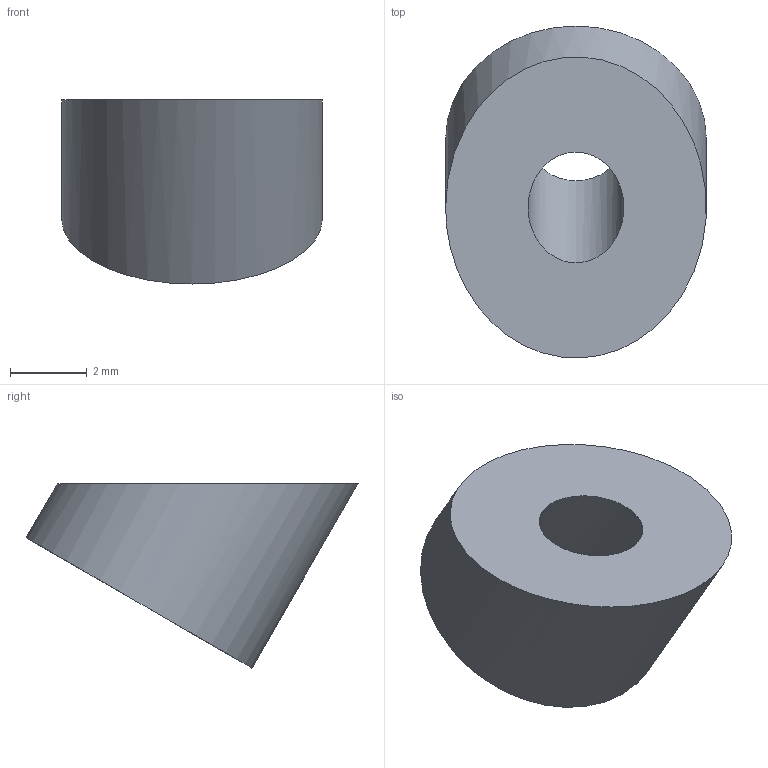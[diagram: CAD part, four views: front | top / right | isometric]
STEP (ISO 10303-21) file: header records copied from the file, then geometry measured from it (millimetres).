
FILE_DESCRIPTION(/* description */ (''),/* implementation_level */ '2;1');
FILE_NAME(/* name */ 'V:\Flow\Inventor\Kontinuierliche Spritzenpumpe\Deckel - Stutzen.stp',/* time_stamp */ '2019-12-20T10:27:12+01:00',/* author */ ('JN'),/* organization */ (''),/* preprocessor_version */ 'ST-DEVELOPER v17',/* originating_system */ 'Autodesk Inventor 2018',/* authorisation */ '');
FILE_SCHEMA (('AUTOMOTIVE_DESIGN { 1 0 10303 214 3 1 1 }'));
Length unit declared in the file: millimetre
Products named in the file (1): Deckel - Stutzen
Bounding box: 6.8 x 8.66 x 4.8 mm (x, y, z)
Volume: 112.4 mm3; surface area: 172.2 mm2
Topology: 1 solids, 1 shells, 4 faces, 9 edges, 7 vertices
Faces by surface type: plane 2, cylinder 2
Full cylindrical faces by diameter (mm): 2.5 x1, 6.8 x1
Entity records: 167 total; most frequent: DIRECTION 26, CARTESIAN_POINT 21, ORIENTED_EDGE 18, AXIS2_PLACEMENT_3D 12, EDGE_CURVE 9, VERTEX_POINT 7, EDGE_LOOP 6, FACE_OUTER_BOUND 4
